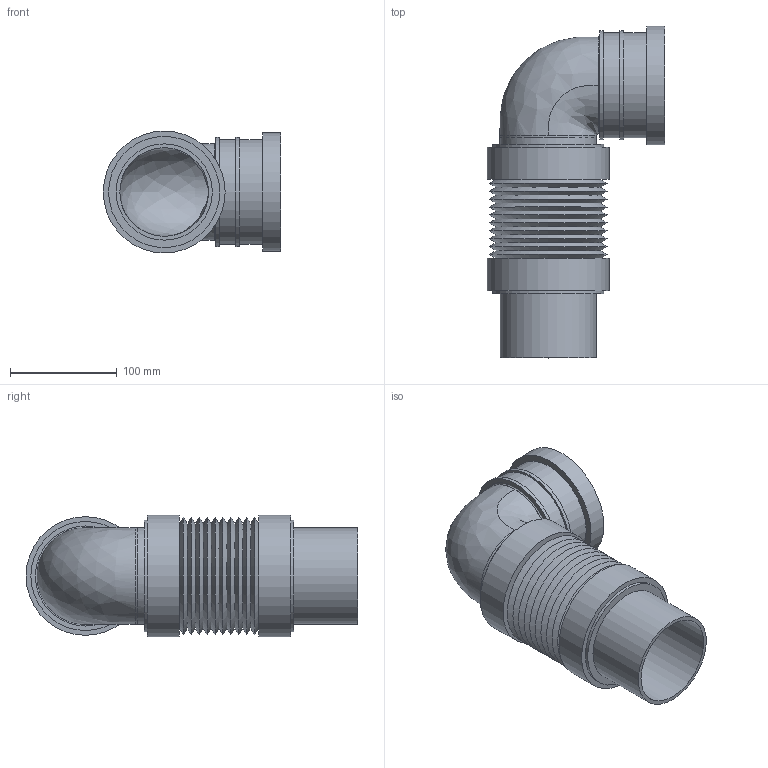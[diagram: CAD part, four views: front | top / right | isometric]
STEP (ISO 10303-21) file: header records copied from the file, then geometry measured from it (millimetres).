
FILE_DESCRIPTION(/* description */ (''),/* implementation_level */ '2;1');
FILE_NAME(/* name */ 'Z:\Geberit\Export\NewStep\241521.stp',/* time_stamp */ '2014-04-01T19:58:39+02:00',/* author */ ('ML'),/* organization */ (''),/* preprocessor_version */ 'ST-DEVELOPER v15.2',/* originating_system */ 'Autodesk Inventor 2014',/* authorisation */ '');
FILE_SCHEMA (('AUTOMOTIVE_DESIGN { 1 0 10303 214 3 1 1 }'));
Length unit declared in the file: millimetre
Products named in the file (5): 883607; PE Wand-WC-Bogen Flexschlauch Einzelteil; 883607b; 387476; 241521
Bounding box: 166 x 310.5 x 114 mm (x, y, z)
Volume: 523448.4 mm3; surface area: 336681.1 mm2
Topology: 7 solids, 18 shells, 105 faces, 176 edges, 97 vertices
Faces by surface type: cylinder 38, plane 30, cone 24, bspline 12, torus 1
Full cylindrical faces by diameter (mm): 83 x2, 83.025 x3, 88.5 x2, 90 x2, 90.375 x1, 91.45 x1, 91.5 x2, 92.2 x1, 94.8 x4, 97.183 x10, 98.2 x2, 102 x2, 103.65 x1, 104 x2, 111 x1, 114 x2
Entity records: 3087 total; most frequent: CARTESIAN_POINT 1222, DIRECTION 362, ORIENTED_EDGE 252, EDGE_LOOP 194, AXIS2_PLACEMENT_3D 181, EDGE_CURVE 111, ADVANCED_FACE 105, FACE_BOUND 104
